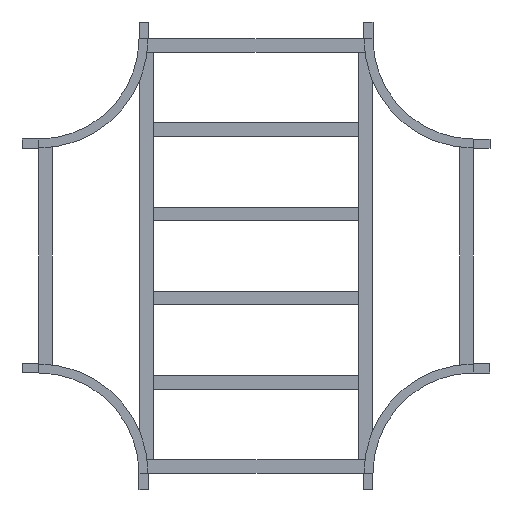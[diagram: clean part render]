
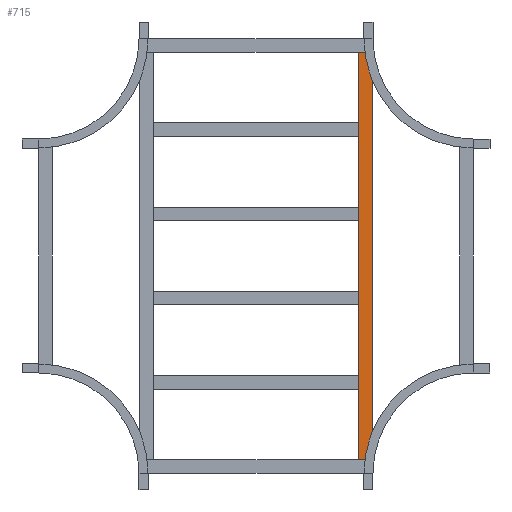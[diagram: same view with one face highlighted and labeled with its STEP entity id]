
A CAD part, front view. The second image highlights one B-rep face of the part: STEP entity #715.
In plain terms, the highlighted planar face has unit normal (0, -1, 0).
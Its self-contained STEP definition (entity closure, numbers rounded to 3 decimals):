
#3 = LINE ( 'NONE', #975, #1079 ) ;
#7 = EDGE_CURVE ( 'NONE', #337, #867, #965, .T. ) ;
#11 = VERTEX_POINT ( 'NONE', #91 ) ;
#91 = CARTESIAN_POINT ( 'NONE',  ( 609.5, 0., -20.25 ) ) ;
#108 = CARTESIAN_POINT ( 'NONE',  ( 609.5, 0., 20.25 ) ) ;
#119 = CARTESIAN_POINT ( 'NONE',  ( 609.5, 0., 20.25 ) ) ;
#123 = DIRECTION ( 'NONE',  ( -1., 0., 0. ) ) ;
#143 = VECTOR ( 'NONE', #1185, 1000. ) ;
#180 = DIRECTION ( 'NONE',  ( 0., 0., 1. ) ) ;
#201 = ORIENTED_EDGE ( 'NONE', *, *, #1390, .F. ) ;
#216 = CARTESIAN_POINT ( 'NONE',  ( 609.5, 0., -20.25 ) ) ;
#218 = DIRECTION ( 'NONE',  ( 0., 1., 0. ) ) ;
#219 = EDGE_CURVE ( 'NONE', #337, #11, #1075, .T. ) ;
#252 = VERTEX_POINT ( 'NONE', #771 ) ;
#312 = PLANE ( 'NONE',  #424 ) ;
#336 = CARTESIAN_POINT ( 'NONE',  ( -609.5, 0., 20.25 ) ) ;
#337 = VERTEX_POINT ( 'NONE', #119 ) ;
#405 = ORIENTED_EDGE ( 'NONE', *, *, #7, .T. ) ;
#424 = AXIS2_PLACEMENT_3D ( 'NONE', #716, #218, #180 ) ;
#532 = ORIENTED_EDGE ( 'NONE', *, *, #219, .F. ) ;
#573 = EDGE_LOOP ( 'NONE', ( #772, #201, #532, #405 ) ) ;
#580 = VECTOR ( 'NONE', #977, 1000. ) ;
#677 = LINE ( 'NONE', #216, #708 ) ;
#708 = VECTOR ( 'NONE', #123, 1000. ) ;
#715 = ADVANCED_FACE ( 'NONE', ( #1286 ), #312, .F. ) ;
#716 = CARTESIAN_POINT ( 'NONE',  ( 609.5, 0., 20.25 ) ) ;
#771 = CARTESIAN_POINT ( 'NONE',  ( -609.5, 0., -20.25 ) ) ;
#772 = ORIENTED_EDGE ( 'NONE', *, *, #882, .T. ) ;
#867 = VERTEX_POINT ( 'NONE', #336 ) ;
#882 = EDGE_CURVE ( 'NONE', #867, #252, #3, .T. ) ;
#965 = LINE ( 'NONE', #1179, #143 ) ;
#975 = CARTESIAN_POINT ( 'NONE',  ( -609.5, 0., 20.25 ) ) ;
#977 = DIRECTION ( 'NONE',  ( 0., 0., -1. ) ) ;
#1075 = LINE ( 'NONE', #108, #580 ) ;
#1079 = VECTOR ( 'NONE', #1087, 1000. ) ;
#1087 = DIRECTION ( 'NONE',  ( 0., 0., -1. ) ) ;
#1179 = CARTESIAN_POINT ( 'NONE',  ( 609.5, 0., 20.25 ) ) ;
#1185 = DIRECTION ( 'NONE',  ( -1., 0., 0. ) ) ;
#1286 = FACE_OUTER_BOUND ( 'NONE', #573, .T. ) ;
#1390 = EDGE_CURVE ( 'NONE', #11, #252, #677, .T. ) ;
